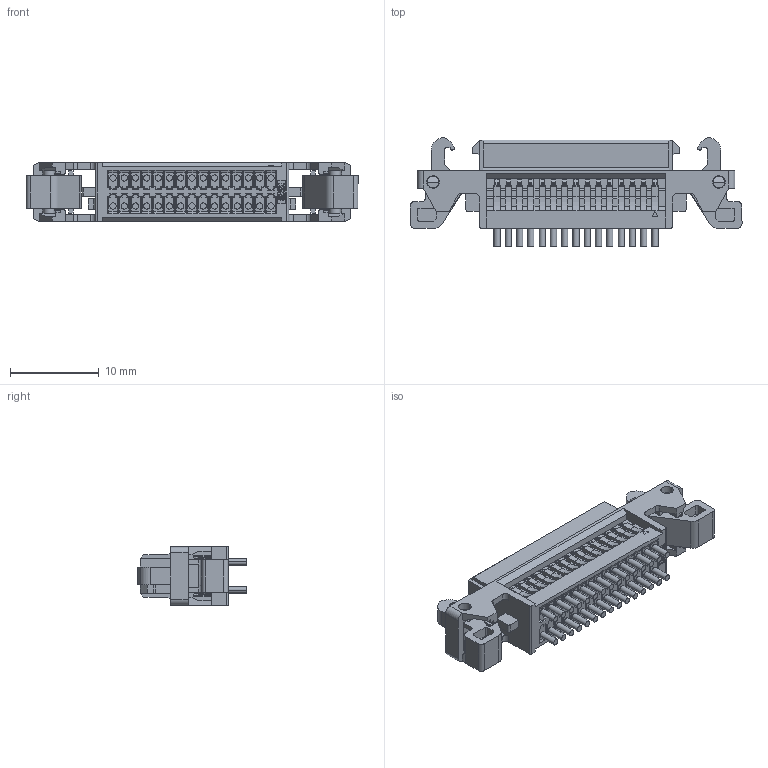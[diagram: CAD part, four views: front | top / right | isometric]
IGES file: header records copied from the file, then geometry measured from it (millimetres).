
Start section: Elysium IGES Interface
Global section: file name: 69HC:\Users\1314\Desktop\temp\回覧用-一時的\8929\30\P3C988_8929E-030.igs; native system: Creo Elements/Direct Modeling 19.0F  14-Feb-2017; preprocessor: Creo Element/Direct IGES_3D V2.2; author: Unknown; organization: Unknown; date: 20171013.143056; units: millimetre
Bounding box: 37.38 x 12.25 x 6.6 mm (x, y, z)
Volume: 1322.5 mm3; surface area: 1968.4 mm2
Topology: 1 solids, 1 shells, 1719 faces, 4612 edges, 3042 vertices
Faces by surface type: bspline 1719
